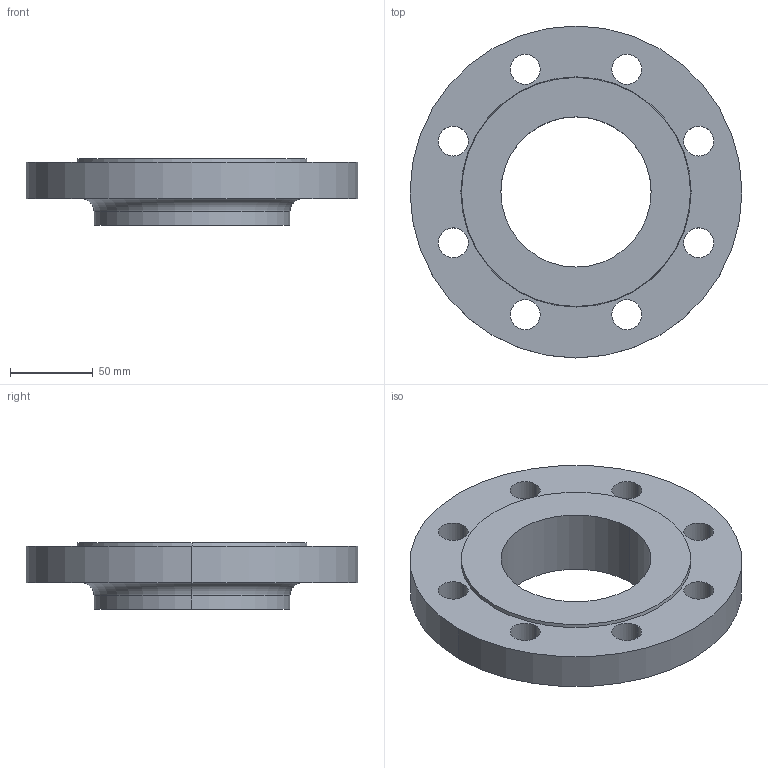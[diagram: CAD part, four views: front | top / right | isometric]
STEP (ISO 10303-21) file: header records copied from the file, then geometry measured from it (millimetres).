
FILE_DESCRIPTION (( 'STEP AP214' ), '1' );
FILE_NAME ('PN40 DN80 Type 12 - Type B Face.STEP', '2019-01-01T19:40:49', ( '' ), ( '' ), 'SwSTEP 2.0', 'SolidWorks 2019', '' );
FILE_SCHEMA (( 'AUTOMOTIVE_DESIGN' ));
Length unit declared in the file: millimetre
Products named in the file (1): PN40 DN80 Type 12 - Type B Face
Bounding box: 200 x 200 x 40 mm (x, y, z)
Volume: 599346.8 mm3; surface area: 86459.6 mm2
Topology: 1 solids, 1 shells, 30 faces, 76 edges, 50 vertices
Faces by surface type: cylinder 22, plane 4, torus 2, cone 2
Entity records: 1006 total; most frequent: DIRECTION 190, CARTESIAN_POINT 157, ORIENTED_EDGE 152, AXIS2_PLACEMENT_3D 83, EDGE_CURVE 76, CIRCLE 52, EDGE_LOOP 50, VERTEX_POINT 50
